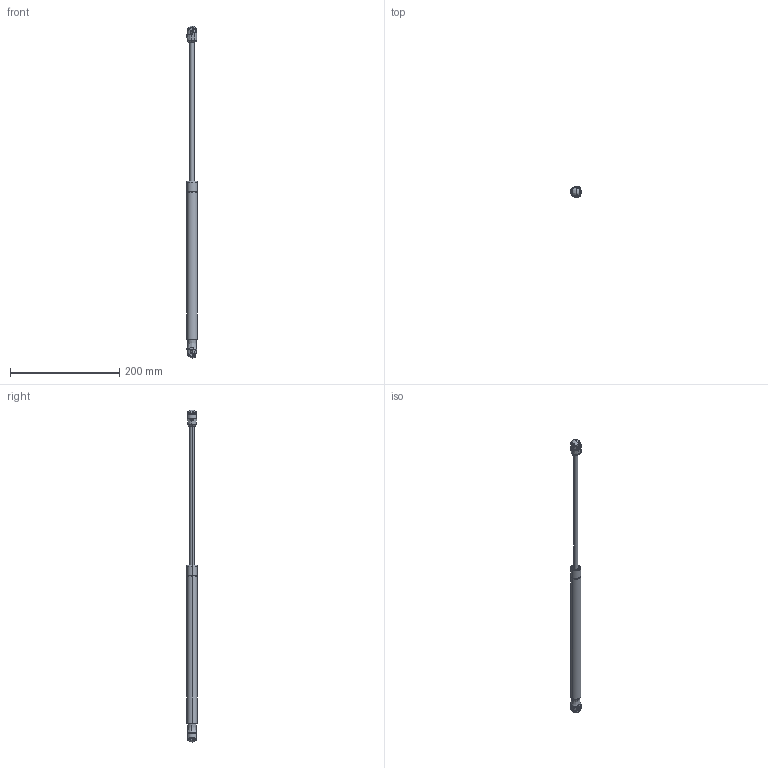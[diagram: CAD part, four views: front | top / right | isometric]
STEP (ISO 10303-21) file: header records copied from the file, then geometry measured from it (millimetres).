
FILE_DESCRIPTION (( 'STEP AP214' ), '1' );
FILE_NAME ('GS08-0950PE10.STEP', '2011-03-29T19:33:40', ( 'user' ), ( '' ), 'SwSTEP 2.0', 'SolidWorks 2011', '' );
FILE_SCHEMA (( 'AUTOMOTIVE_DESIGN' ));
Length unit declared in the file: millimetre
Products named in the file (10): 4098DY_B-SOCKET2-4; 7175NH_B-SOCKET_FLARED1-2; 4098DY_B-SOCKETa; GS08-0950PE10; 7175NH_B-SOCKET_FLARED2-2; GS08-0950PE10-TUBE; 7175NH_B-SOCKET_FLARED1; GS08-0950PE10-SHAFT; 4098DY_B-SOCKET1-4; GS08-0950PE10-NC
Assembly tree (9 placements, depth 3):
  GS08-0950PE10
    7175NH_B-SOCKET_FLARED1
      7175NH_B-SOCKET_FLARED1-2
      7175NH_B-SOCKET_FLARED2-2
    GS08-0950PE10-NC
      GS08-0950PE10-TUBE
      GS08-0950PE10-SHAFT
    4098DY_B-SOCKETa
      4098DY_B-SOCKET1-4
      4098DY_B-SOCKET2-4
Bounding box: 19.04 x 19 x 608 mm (x, y, z)
Volume: 92199 mm3; surface area: 37864 mm2
Topology: 6 solids, 6 shells, 403 faces, 1085 edges, 683 vertices
Faces by surface type: bspline 140, plane 119, cylinder 118, cone 18, torus 8
Entity records: 18249 total; most frequent: CARTESIAN_POINT 7604, ORIENTED_EDGE 2152, DIRECTION 1574, EDGE_CURVE 1076, VERTEX_POINT 682, AXIS2_PLACEMENT_3D 596, EDGE_LOOP 408, ADVANCED_FACE 403
